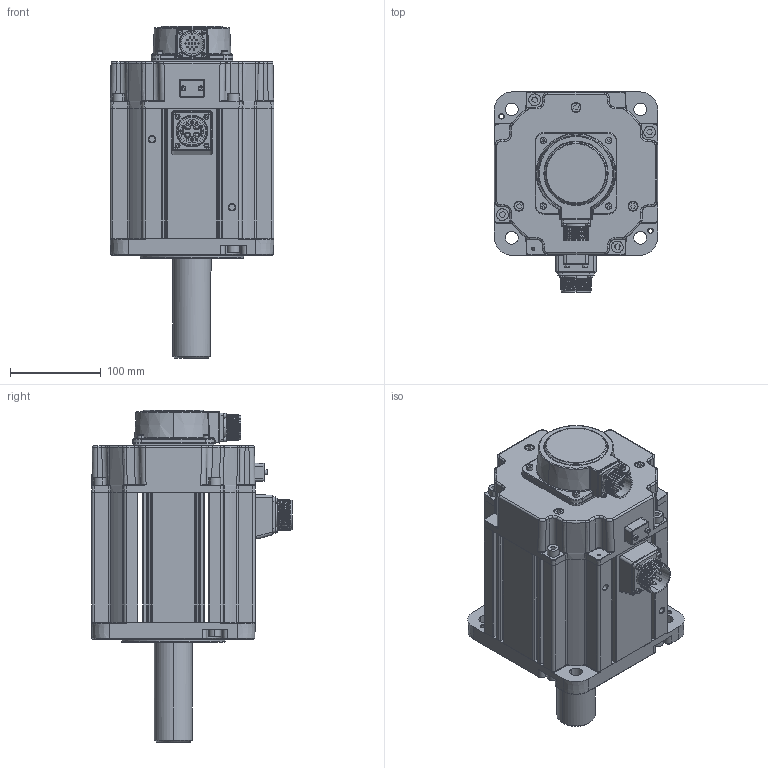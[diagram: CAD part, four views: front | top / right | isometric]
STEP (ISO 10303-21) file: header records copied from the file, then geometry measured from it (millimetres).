
FILE_DESCRIPTION (( 'STEP AP203' ), '1' );
FILE_NAME ('MS6G-180CN15BZ2-45P5.STEP', '2023-12-30T03:40:31', ( '' ), ( '' ), 'SwSTEP 2.0', 'SolidWorks 2022', '' );
FILE_SCHEMA (( 'CONFIG_CONTROL_DESIGN' ));
Products named in the file (1): MS6G-180CN15BZ2-45P5
Bounding box: 180 x 220.9 x 365.5 mm (x, y, z)
Surface area: 299129.5 mm2 (no closed solid volume)
Topology: 0 solids, 71 shells, 1463 faces, 4681 edges, 3235 vertices
Faces by surface type: plane 471, cylinder 434, bspline 272, torus 134, cone 109, sphere 43
Entity records: 72682 total; most frequent: CARTESIAN_POINT 34006, ORIENTED_EDGE 7726, DIRECTION 7616, EDGE_CURVE 4631, VERTEX_POINT 3235, AXIS2_PLACEMENT_3D 2714, LINE 2188, VECTOR 2188
